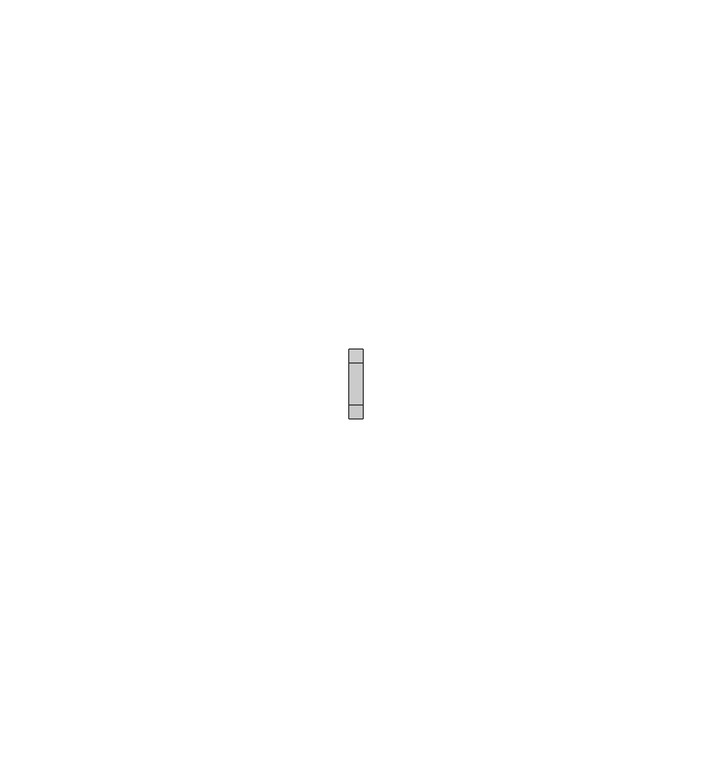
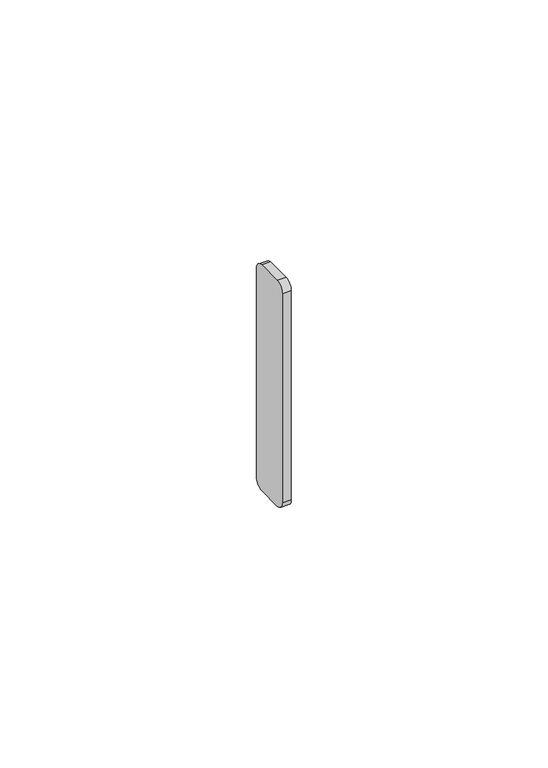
"""IFC4 building model written with IfcOpenShell, lengths in millimetres: proxy geometry, Odbojniki - OPW35 PLUS : Odbojniki - OPW35 PLUS."""

from ifc_helpers import new_model, si_unit, point, frame, frame_2d, origin, place, context, project, spatial, polyline, circle_curve, trimmed, segment, composite_curve, outline, extrude, source, transform, mapped, element, save


def generic_models_68332640(model_context):
    return source(origin(), model_context, "Body", "SweptSolid", [
        extrude(outline(composite_curve([segment(trimmed(circle_curve(frame_2d((24.9415089, 35.7729307)), 2.0), [point((22.9415089, 35.7729307))], [point((24.9415089, 37.7729307))], False, "CARTESIAN"), True, "CONTINUOUS"), segment(polyline([(24.9415089, 37.7729307), (30.9415089, 37.7729307)]), True, "CONTINUOUS"), segment(trimmed(circle_curve(frame_2d((30.9415089, 35.7729307)), 2.0), [point((30.9415089, 37.7729307))], [point((32.9415089, 35.7729307))], False, "CARTESIAN"), True, "CONTINUOUS"), segment(polyline([(32.9415089, 35.7729307), (32.9415089, -13.8806226)]), True, "CONTINUOUS"), segment(trimmed(circle_curve(frame_2d((30.9415089, -13.8806226)), 2.0), [point((32.9415089, -13.8806226))], [point((30.9415089, -15.8806226))], False, "CARTESIAN"), True, "CONTINUOUS"), segment(polyline([(30.9415089, -15.8806226), (24.9415089, -15.8806226)]), True, "CONTINUOUS"), segment(trimmed(circle_curve(frame_2d((24.9415089, -13.8806226)), 2.0), [point((24.9415089, -15.8806226))], [point((22.9415089, -13.8806226))], False, "CARTESIAN"), True, "CONTINUOUS"), segment(polyline([(22.9415089, -13.8806226), (22.9415089, 35.7729307)]), True, "CONTINUOUS")], self_intersect=False)), frame((-3.0, 0.0, 0.0), z_axis=(1.0, 0.0, 0.0), x_axis=(0.0, 1.0, 0.0)), (0.0, 0.0, 1.0), 2.0),
    ])


if __name__ == "__main__":
    model = new_model("IFC4")
    model_context = context("Model", 3, world=origin())
    ifc_project = project(units=[si_unit("LENGTHUNIT", "METRE", prefix="MILLI")], contexts=[model_context])
    site = spatial("IfcSite", under=ifc_project)
    building = spatial("IfcBuilding", under=site)
    placement = place(None, origin())
    generic_models_shape = generic_models_68332640(model_context)
    element("IfcBuildingElementProxy", 1, Name="Odbojniki - OPW35 PLUS : Odbojniki - OPW35 PLUS", ObjectType="Odbojniki - OPW35 PLUS : Odbojniki - OPW35 PLUS", at=placement, inside=building, context=model_context, shape_type="MappedRepresentation", body=[
        mapped(generic_models_shape, transform((0.0, 0.0, 0.0), x_axis=(1.0, 0.0, 0.0), y_axis=(0.0, 1.0, 0.0), z_axis=(0.0, 0.0, 1.0))),
    ])
    save(model, "model.ifc")
